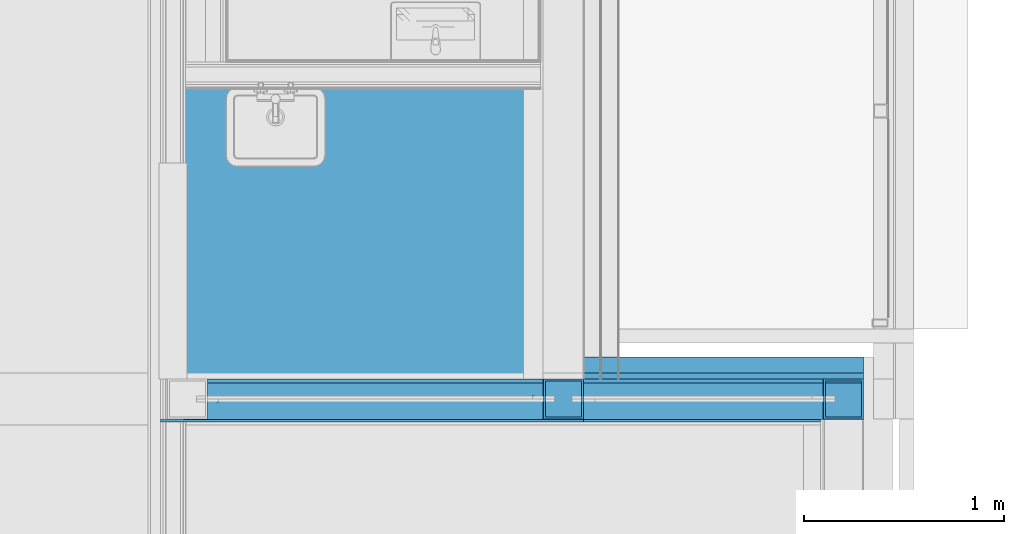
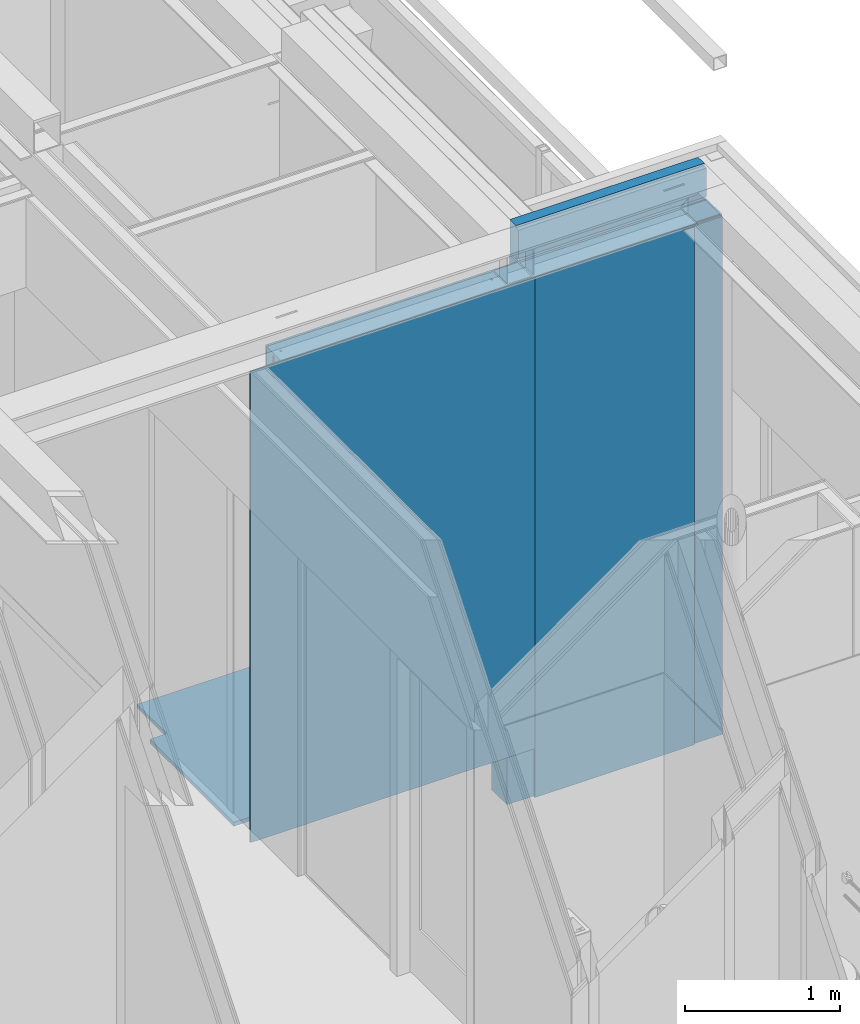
# One storey, part 90 of 165: 12 building element parts, 5 elements without a shape of their own.
"""IFC2X3 building model written with IfcOpenShell, lengths in millimetres."""

import ifcopenshell
import ifcopenshell.guid

model = None  # the IFC model being written
_history = None  # IfcOwnerHistory: only IFC2X3 demands one
_inside = {}  # id of a spatial element -> (the spatial element, [elements in it])
_under = {}  # id of a project, library or spatial element -> (it, [spatial elements below it])
_declared = {}  # id of a project -> (the project, [libraries it declares])
_typed = {}  # id of a type object -> (the type object, [elements of that type])
_made_of = {}  # id of a material, layer set ... -> (it, [elements and type objects made of it])


def new_model(schema):
    """Start an empty IFC model of exactly this schema.

    Asked for "IFC4X3", IfcOpenShell would pick the latest addendum, in which some entities
    have other attributes; the version numbers below select the first issue.
    IFC2X3 requires an IfcOwnerHistory on every rooted entity: one is made here for all.
    """
    global model, _history
    if schema == "IFC4X3":
        model = ifcopenshell.file(schema_version=(4, 3, 0, 0))
    else:
        model = ifcopenshell.file(schema=schema)
    _inside.clear()
    _under.clear()
    _declared.clear()
    _typed.clear()
    _made_of.clear()
    _history = None
    if model.schema == "IFC2X3":
        org = make("IfcOrganization", Name="unknown")
        user = make(
            "IfcPersonAndOrganization",
            ThePerson=make("IfcPerson", FamilyName="unknown"),
            TheOrganization=org,
        )
        app = make(
            "IfcApplication",
            ApplicationDeveloper=org,
            Version="unknown",
            ApplicationFullName="unknown",
            ApplicationIdentifier="unknown",
        )
        _history = make(
            "IfcOwnerHistory",
            OwningUser=user,
            OwningApplication=app,
            ChangeAction="ADDED",
            CreationDate=0,
        )
    return model


def make(cls, **values):
    """One entity of the class cls with the attributes given. An attribute that is None is left unset."""
    return model.create_entity(
        cls, **{name: value for name, value in values.items() if value is not None}
    )


def entity(cls, *values):
    """Any entity or typed value of the class cls, its attributes in the order of the schema. None: left unset."""
    e = model.create_entity(cls)
    for i, value in enumerate(values):
        if value is not None:
            e[i] = value
    return e


def rooted(cls, **values):
    """An entity with a GlobalId (a new one), such as an element, a storey or a relation."""
    return make(cls, GlobalId=ifcopenshell.guid.new(), OwnerHistory=_history, **values)


def si_unit(unit_type, name, prefix=None):
    """IfcSIUnit, for example si_unit("LENGTHUNIT", "METRE", prefix="MILLI")."""
    return make("IfcSIUnit", UnitType=unit_type, Prefix=prefix, Name=name)


def converted_unit(unit_type, name, factor, base, dimensions=None, offset=None):
    """IfcConversionBasedUnit, such as the inch: factor (a typed value) times the base unit."""
    return make(
        "IfcConversionBasedUnit"
        if offset is None
        else "IfcConversionBasedUnitWithOffset",
        ConversionOffset=offset,
        Dimensions=None
        if dimensions is None
        else entity("IfcDimensionalExponents", *dimensions),
        UnitType=unit_type,
        Name=name,
        ConversionFactor=make(
            "IfcMeasureWithUnit", ValueComponent=factor, UnitComponent=base
        ),
    )


def derived_unit(unit_type, elements):
    """IfcDerivedUnit: a product of units, each with its exponent."""
    return make(
        "IfcDerivedUnit",
        Elements=[
            make("IfcDerivedUnitElement", Unit=unit, Exponent=power)
            for unit, power in elements
        ],
        UnitType=unit_type,
    )


def money_unit(currency):
    """IfcMonetaryUnit."""
    return make("IfcMonetaryUnit", Currency=currency)


def assignment(units):
    """IfcUnitAssignment: the units of a project."""
    return None if units is None else make("IfcUnitAssignment", Units=units)


def point(xyz):
    """IfcCartesianPoint."""
    return None if xyz is None else make("IfcCartesianPoint", Coordinates=xyz)


def direction(xyz):
    """IfcDirection."""
    return None if xyz is None else make("IfcDirection", DirectionRatios=xyz)


def frame(location, z_axis=None, x_axis=None):
    """IfcAxis2Placement3D, a coordinate frame: its origin and axes. An axis left out is left unset."""
    return make(
        "IfcAxis2Placement3D",
        Location=point(location),
        Axis=direction(z_axis),
        RefDirection=direction(x_axis),
    )


def origin_with_axes():
    """The frame at (0, 0, 0) with the z axis (0, 0, 1) and the x axis (1, 0, 0) written out."""
    return frame((0.0, 0.0, 0.0), z_axis=(0.0, 0.0, 1.0), x_axis=(1.0, 0.0, 0.0))


def place(relative_to, where):
    """IfcLocalPlacement: puts the frame where relative to a parent placement (None: the world)."""
    return make(
        "IfcLocalPlacement", PlacementRelTo=relative_to, RelativePlacement=where
    )


def context(
    kind, dimensions, precision=None, world=None, true_north=None, identifier=None
):
    """IfcGeometricRepresentationContext, for example the 3D "Model" context."""
    return make(
        "IfcGeometricRepresentationContext",
        ContextIdentifier=identifier,
        ContextType=kind,
        CoordinateSpaceDimension=dimensions,
        Precision=precision,
        WorldCoordinateSystem=world,
        TrueNorth=true_north,
    )


def subcontext(parent, identifier, kind, view, scale=None):
    """IfcGeometricRepresentationSubContext, for example "Body" below "Model"."""
    return make(
        "IfcGeometricRepresentationSubContext",
        ContextIdentifier=identifier,
        ContextType=kind,
        ParentContext=parent,
        TargetScale=scale,
        TargetView=view,
    )


def project(units=None, contexts=None):
    """IfcProject with its units and contexts."""
    return rooted(
        "IfcProject",
        Name="project",
        RepresentationContexts=contexts,
        UnitsInContext=assignment(units),
    )


def spatial(cls, under=None, at=None, **own):
    """A site, building, storey or space (cls), placed at a placement, below another one or the project."""
    s = rooted(cls, ObjectPlacement=at, **own)
    if under is not None:
        _under.setdefault(under.id(), (under, []))[1].append(s)
    return s


def faces_of(points, faces, orient=None, outer=None):
    """IfcFace entities. A face is a list of loops; a loop is a list of indices into points, from 0.

    orient and outer hold one flag for each loop. By default every Orientation is true, the
    first loop of a face is its IfcFaceOuterBound and the others are IfcFaceBound.
    """
    made = []
    for i, loops in enumerate(faces):
        bounds = []
        for j, loop in enumerate(loops):
            is_outer = j == 0 if outer is None else outer[i][j]
            bounds.append(
                make(
                    "IfcFaceOuterBound" if is_outer else "IfcFaceBound",
                    Bound=make("IfcPolyLoop", Polygon=[points[k] for k in loop]),
                    Orientation=True if orient is None else orient[i][j],
                )
            )
        made.append(make("IfcFace", Bounds=bounds))
    return made


def faceted_brep(points, faces, orient=None, outer=None, voids=None):
    """IfcFacetedBrep: a solid bounded by flat faces; with voids (closed shells), ...WithVoids."""
    shared = [point(p) for p in points]
    hull = make("IfcClosedShell", CfsFaces=faces_of(shared, faces, orient, outer))
    if voids is None:
        return make("IfcFacetedBrep", Outer=hull)
    return make(
        "IfcFacetedBrepWithVoids",
        Outer=hull,
        Voids=[
            make(cls, CfsFaces=faces_of(shared, fs, o, b)) for cls, fs, o, b in voids
        ],
    )


def shape(context_of_items, identifier, shape_type, items):
    """IfcShapeRepresentation: the items that make up one representation, for example the "Body"."""
    return make(
        "IfcShapeRepresentation",
        ContextOfItems=context_of_items,
        RepresentationIdentifier=identifier,
        RepresentationType=shape_type,
        Items=items,
    )


def material(Name=None, Category=None):
    """IfcMaterial."""
    return make("IfcMaterial", Name=Name, Category=Category)


def made_of(thing, what):
    """Note that an element or type object is made of a material, layer set ...; save() writes the relation."""
    if what is not None:
        _made_of.setdefault(what.id(), (what, []))[1].append(thing)
    return thing


def type_object(cls, material=None, **own):
    """A type object (cls), such as IfcWallType, which elements share."""
    return made_of(rooted(cls, **own), material)


def element(
    cls,
    number,
    at=None,
    inside=None,
    cuts=None,
    type_object=None,
    material=None,
    context=None,
    identifier="Body",
    shape_type=None,
    held_by="IfcProductDefinitionShape",
    body=None,
    shapes=None,
    **own,
):
    """One element of the class cls, such as IfcWall. Its Tag is "e" and its number.

    at: its placement. inside: the storey or other place that contains it. cuts: it is an
    opening in that element (IfcRelVoidsElement). A single representation is given by context,
    identifier, shape_type and body (its items); several are given by shapes. held_by: the class
    of the entity that holds the representations. save() writes the other relations.
    """
    e = rooted(cls, Tag="e%d" % number, ObjectPlacement=at, **own)
    if body is not None:
        shapes = [shape(context, identifier, shape_type, body)]
    if shapes is not None:
        e.Representation = make(held_by, Representations=shapes)
    if inside is not None:
        _inside.setdefault(inside.id(), (inside, []))[1].append(e)
    if cuts is not None:
        rooted(
            "IfcRelVoidsElement", RelatingBuildingElement=cuts, RelatedOpeningElement=e
        )
    if type_object is not None:
        _typed.setdefault(type_object.id(), (type_object, []))[1].append(e)
    return made_of(e, material)


def aggregate(whole, parts):
    """IfcRelAggregates: a whole, such as a stair, and the parts it consists of."""
    return rooted("IfcRelAggregates", RelatingObject=whole, RelatedObjects=parts)


def save(model, path):
    """Write the relations noted so far, then the file.

    IfcRelAggregates (storeys below a building ...), IfcRelContainedInSpatialStructure (elements
    in a storey), IfcRelDefinesByType, IfcRelAssociatesMaterial and IfcRelDeclares: one each for
    every whole, place, type object, material and project.
    """
    for whole, parts in _under.values():
        aggregate(whole, parts)
    for where, things in _inside.values():
        rooted(
            "IfcRelContainedInSpatialStructure",
            RelatedElements=things,
            RelatingStructure=where,
        )
    for kind, things in _typed.values():
        rooted("IfcRelDefinesByType", RelatedObjects=things, RelatingType=kind)
    for what, things in _made_of.values():
        rooted("IfcRelAssociatesMaterial", RelatedObjects=things, RelatingMaterial=what)
    for by, libraries in _declared.values():
        rooted("IfcRelDeclares", RelatingContext=by, RelatedDefinitions=libraries)
    model.write(path)


model = new_model("IFC2X3")

# Units and contexts
model_context = context("Model", 3, precision=0.01, world=origin_with_axes(), true_north=direction((0.0, 1.0)))
body_context = subcontext(model_context, "Body", "Model", "MODEL_VIEW")
ifc_project = project(units=[si_unit("LENGTHUNIT", "METRE", prefix="MILLI"), si_unit("AREAUNIT", "SQUARE_METRE"), si_unit("VOLUMEUNIT", "CUBIC_METRE"), converted_unit("PLANEANGLEUNIT", "DEGREE", entity("IfcPlaneAngleMeasure", 0.0174532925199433), si_unit("PLANEANGLEUNIT", "RADIAN"), dimensions=[0, 0, 0, 0, 0, 0, 0]), money_unit("EUR"), converted_unit("TIMEUNIT", "Year", entity("IfcTimeMeasure", 31556926.0), si_unit("TIMEUNIT", "SECOND"), dimensions=[0, 0, 1, 0, 0, 0, 0]), si_unit("MASSUNIT", "GRAM", prefix="KILO"), si_unit("THERMODYNAMICTEMPERATUREUNIT", "DEGREE_CELSIUS"), si_unit("LUMINOUSINTENSITYUNIT", "LUMEN"), si_unit("ENERGYUNIT", "JOULE", prefix="MEGA"), derived_unit("THERMALCONDUCTANCEUNIT", [(si_unit("POWERUNIT", "WATT"), 1), (si_unit("LENGTHUNIT", "METRE"), -1), (si_unit("THERMODYNAMICTEMPERATUREUNIT", "KELVIN"), -1)]), derived_unit("SPECIFICHEATCAPACITYUNIT", [(si_unit("ENERGYUNIT", "JOULE"), 1), (si_unit("MASSUNIT", "GRAM", prefix="KILO"), -1), (si_unit("THERMODYNAMICTEMPERATUREUNIT", "KELVIN"), -1)]), derived_unit("MASSDENSITYUNIT", [(si_unit("MASSUNIT", "GRAM", prefix="KILO"), 1), (si_unit("VOLUMEUNIT", "CUBIC_METRE"), -1)])], contexts=[model_context])

# Site, building, storey
site_placement = place(None, origin_with_axes())
site = spatial("IfcSite", under=ifc_project, at=site_placement, Name="Site", CompositionType="ELEMENT")
building_placement = place(site_placement, origin_with_axes())
building = spatial("IfcBuilding", under=site, at=building_placement, Name="Naam gebouw", CompositionType="ELEMENT")
storey_placement = place(building_placement, origin_with_axes())
storey = spatial("IfcBuildingStorey", under=building, at=storey_placement, Name="Begane grond", CompositionType="ELEMENT", Elevation=0.0)

# Wall, building element parts
wall_type = type_object("IfcWallType", Name="21 Buitenwand spouwmuur HSB 464", PredefinedType="NOTDEFINED")
wall_placement = place(storey_placement, frame((28499.99998415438, 16749.99778166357, -485.0), z_axis=(0.0, 0.0, 1.0), x_axis=(1.0, 0.0, 0.0)))
wall = element("IfcWall", 1, at=wall_placement, inside=storey, type_object=wall_type, Name="21_Wand-x")
ifc_material_1 = material(Name="Isolatie - Steenwol zacht")
building_element_part_1_placement = place(wall_placement, origin_with_axes())
building_element_part_1 = element("IfcBuildingElementPart", 2, at=building_element_part_1_placement, material=ifc_material_1, Name="Isolatie - Steenwol zacht", context=body_context, shape_type="Brep", body=[
    faceted_brep([(0.0, 109.9999999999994, 0.0), (0.0, 109.9999999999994, 4067.999999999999), (16.0000203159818, 109.9999999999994, 4067.999999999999), (16.0000203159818, 109.9999999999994, 4079.999999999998), (1.000020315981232, 109.9999999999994, 4079.999999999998), (1.000020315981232, 109.9999999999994, 4345.0), (1400.000015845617, 109.9999999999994, 4345.0), (1400.000015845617, 109.9999999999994, 0.0), (0.0, 0.0, 0.0), (0.0, 0.0, 4067.999999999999), (16.0000203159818, 0.0, 4067.999999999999), (16.0000203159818, 0.0, 4079.999999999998), (1.000020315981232, 0.0, 4079.999999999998), (1.000020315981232, 29.99999999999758, 4327.5), (1.000020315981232, 29.99999999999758, 4345.0), (1.000020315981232, 0.0, 4085.0), (1.000020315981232, 29.99999999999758, 4085.0), (1.000020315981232, 29.99999999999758, 4102.5), (1.000020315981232, 0.0, 4102.5), (1.000020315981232, 0.0, 4327.5), (1400.000015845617, 29.99999999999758, 4345.0), (1400.000015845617, 29.99999999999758, 4327.5), (1400.000015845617, 0.0, 4327.5), (1400.000015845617, 0.0, 4102.5), (1400.000015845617, 29.99999999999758, 4102.5), (1400.000015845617, 29.99999999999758, 4085.0), (1400.000015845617, 0.0, 4085.0), (1400.000015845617, 0.0, 0.0)], [[[0, 1, 2, 3, 4, 5, 6, 7]], [[8, 9, 1, 0]], [[10, 2, 1, 9]], [[11, 3, 2, 10]], [[12, 4, 3, 11]], [[13, 14, 5, 4, 12, 15, 16, 17, 18, 19]], [[6, 5, 14, 20]], [[20, 21, 22, 23, 24, 25, 26, 27, 7, 6]], [[8, 0, 7, 27]], [[11, 10, 9, 8, 27, 26, 15, 12]], [[20, 14, 13, 21]], [[25, 16, 15, 26]], [[24, 17, 16, 25]], [[23, 18, 17, 24]], [[22, 19, 18, 23]], [[21, 13, 19, 22]]]),
])
ifc_material_2 = material(Name="ALG - ISOLATIE UITVULLING")
building_element_part_2_placement = place(wall_placement, origin_with_axes())
building_element_part_2 = element("IfcBuildingElementPart", 3, at=building_element_part_2_placement, material=ifc_material_2, Name="ALG - ISOLATIE UITVULLING", context=body_context, shape_type="Brep", body=[
    faceted_brep([(1200.000015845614, -18.00000000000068, 5.000000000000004), (1400.000015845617, -18.00000000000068, 5.000000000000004), (1400.000015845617, -18.00000000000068, 0.0), (0.0, -18.00000000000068, 0.0), (0.0, -18.00000000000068, 4067.999999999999), (16.0000203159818, -18.00000000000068, 4067.999999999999), (16.0000203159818, -18.00000000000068, 4079.999999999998), (1.000020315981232, -18.00000000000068, 4079.999999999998), (1.000020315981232, -18.00000000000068, 4085.0), (1199.00001584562, -18.00000000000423, 4085.0), (1199.00001584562, -18.00000000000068, 4080.0), (1101.000011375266, -18.00000000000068, 4080.0), (1101.000011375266, -18.00000000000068, 4068.0), (1200.000015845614, -18.00000000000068, 4068.0), (1200.000015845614, -200.0000000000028, 5.000000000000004), (1400.000015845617, -200.0000000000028, 5.000000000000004), (1400.000015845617, -200.0000000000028, 4068.0), (1400.00001584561, -201.9999999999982, 4068.0), (1400.000015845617, -201.9999999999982, 0.0), (0.0, -202.0000000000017, 0.0), (0.0, -200.0000000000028, 4085.0), (0.0, -200.0000000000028, 4067.999999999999), (0.0, -201.9999999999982, 4085.0), (0.0, -100.0000000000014, 454.7254375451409), (0.0, -100.0000000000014, 254.9999996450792), (0.0, -85.00000000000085, 254.9999996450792), (0.0, -85.00000000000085, 454.7254375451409), (0.0, -115.000000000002, 4065.000000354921), (0.0, -115.000000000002, 3865.274562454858), (0.0, -100.0000000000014, 3865.274562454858), (0.0, -100.0000000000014, 4065.000000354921), (16.0000203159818, -100.0000000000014, 4067.999999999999), (16.0000203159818, -200.0000000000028, 4067.999999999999), (16.0000203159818, -115.000000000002, 4067.999999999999), (9.524998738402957, -115.000000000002, 4067.999999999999), (9.524998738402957, -100.0000000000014, 4067.999999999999), (16.0000203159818, -200.0000000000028, 4079.999999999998), (16.0000203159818, -100.0000000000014, 4070.03937690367), (16.0000203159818, -115.000000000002, 4070.03937690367), (1.000020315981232, -200.0000000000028, 4079.999999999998), (1.000020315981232, -200.0000000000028, 4085.0), (1199.00001584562, -201.9999999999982, 4085.0), (1199.00001584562, -201.9999999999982, 4080.0), (1101.000011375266, -201.9999999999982, 4080.0), (1141.818775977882, -100.0000000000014, 4080.0), (1152.375016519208, -100.0000000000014, 4080.0), (1152.375016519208, -85.00000000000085, 4080.0), (1141.818775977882, -85.00000000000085, 4080.0), (1101.000011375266, -201.9999999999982, 4068.0), (1200.000015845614, -200.0000000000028, 4068.0), (1138.03924836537, -100.0000000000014, 4068.0), (1138.03924836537, -85.00000000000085, 4068.0), (1190.475015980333, -85.00000000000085, 4068.0), (1190.475015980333, -100.0000000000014, 4068.0), (1200.000015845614, -115.000000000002, 454.7254339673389), (1200.000015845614, -100.0000000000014, 454.7254339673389), (1200.000015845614, -100.0000000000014, 255.0), (1200.000015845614, -115.000000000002, 255.0), (1200.000015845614, -100.0000000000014, 4065.0), (1200.000015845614, -85.00000000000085, 4065.0), (1200.000015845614, -85.00000000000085, 3865.274566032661), (1200.000015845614, -100.0000000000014, 3865.274566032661), (537.0943579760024, -100.0000000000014, 2160.0), (600.0000073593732, -100.0000000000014, 1960.274566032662), (57.22856316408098, -100.0000000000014, 236.9752550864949), (57.22856316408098, -85.00000000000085, 236.9752550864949), (600.0000073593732, -100.0000000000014, 2359.725433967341), (1142.771451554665, -115.000000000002, 236.9752550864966), (57.22856316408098, -115.000000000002, 4083.024744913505), (1142.771451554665, -100.0000000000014, 236.9752550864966), (57.22856316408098, -100.0000000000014, 4083.024744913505), (1142.771451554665, -100.0000000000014, 4083.024744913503), (1142.771451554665, -85.00000000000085, 4083.024744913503), (662.905656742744, -100.0000000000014, 2160.000000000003)], [[[0, 1, 2, 3, 4, 5, 6, 7, 8, 9, 10, 11, 12, 13]], [[0, 14, 15, 1]], [[15, 16, 17, 18, 2, 1]], [[19, 3, 2, 18]], [[20, 21, 4, 3, 19, 22], [23, 24, 25, 26], [27, 28, 29, 30]], [[31, 5, 4, 21, 32, 33, 34, 35]], [[36, 6, 5, 31, 37, 38, 33, 32]], [[39, 7, 6, 36]], [[39, 40, 8, 7]], [[22, 41, 9, 8, 40, 20]], [[42, 10, 9, 41]], [[43, 11, 10, 42], [44, 45, 46, 47]], [[48, 12, 11, 43]], [[49, 13, 12, 48, 17, 16], [50, 51, 52, 53]], [[0, 13, 49, 14], [54, 55, 56, 57], [58, 59, 60, 61]], [[49, 16, 15, 14]], [[43, 42, 41, 22, 19, 18, 17, 48]], [[21, 20, 40, 39, 36, 32]], [[23, 62, 63, 64, 24]], [[65, 25, 24, 64]], [[60, 59, 52, 51, 26, 25, 65]], [[26, 51, 50, 66, 62, 23]], [[54, 57, 67, 28, 27, 34, 33, 38, 68]], [[69, 63, 62, 29, 28, 67]], [[37, 31, 35, 30, 29, 62, 66, 70]], [[30, 35, 34, 27]], [[68, 38, 37, 70]], [[71, 45, 44]], [[72, 46, 45, 71]], [[72, 47, 46]], [[71, 44, 47, 72]], [[59, 58, 53, 52]], [[58, 61, 73, 66, 50, 53]], [[55, 54, 68, 70, 66, 73]], [[56, 55, 73, 63, 69]], [[57, 56, 69, 67]], [[61, 60, 65, 64, 63, 73]]]),
    faceted_brep([(1395.000015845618, -200.0000000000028, 4080.0), (1395.000015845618, -200.0000000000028, 4084.999999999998), (1395.000015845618, -201.9999999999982, 4085.0), (1395.000015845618, -201.9999999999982, 4080.0), (1205.00001584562, -200.0000000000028, 4084.999999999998), (1205.00001584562, -200.0000000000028, 4080.0), (1205.00001584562, -201.9999999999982, 4085.0), (1205.00001584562, -201.9999999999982, 4080.0)], [[[0, 1, 2, 3]], [[4, 1, 0, 5]], [[1, 4, 6, 2]], [[7, 3, 2, 6]], [[5, 0, 3, 7]], [[4, 5, 7, 6]]]),
])
ifc_material_3 = material(Name="Steen - Kalkzandsteen C")
building_element_part_3_placement = place(wall_placement, origin_with_axes())
building_element_part_3 = element("IfcBuildingElementPart", 4, at=building_element_part_3_placement, material=ifc_material_3, Name="Steen - Kalkzandsteen C", context=body_context, shape_type="Brep", body=[
    faceted_brep([(1186.000015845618, -213.9999999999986, 4079.999999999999), (1186.000015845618, -201.9999999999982, 4080.0), (1186.000015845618, -201.9999999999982, 4085.0), (1186.000015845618, -213.9999999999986, 4085.0), (1101.000011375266, -201.9999999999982, 4080.0), (1101.000011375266, -213.9999999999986, 4080.0), (1101.000011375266, -201.9999999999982, 4068.0), (1186.000015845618, -201.9999999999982, 4068.0), (1186.000015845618, -201.9999999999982, 0.0), (0.0, -202.0000000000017, 0.0), (0.0, -201.9999999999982, 4085.0), (0.0, -213.9999999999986, 4085.0), (0.0, -213.9999999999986, 0.0), (1186.000015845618, -213.9999999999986, 0.0), (1186.000015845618, -213.9999999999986, 4068.0), (1101.000011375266, -213.9999999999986, 4068.0)], [[[0, 1, 2, 3]], [[4, 1, 0, 5]], [[6, 7, 8, 9, 10, 2, 1, 4]], [[11, 3, 2, 10]], [[5, 0, 3, 11, 12, 13, 14, 15]], [[6, 4, 5, 15]], [[14, 7, 6, 15]], [[7, 14, 13, 8]], [[9, 8, 13, 12]], [[12, 11, 10, 9]]]),
])
ifc_material_4 = material(Name="Cementgebonden plaatmateriaal")
building_element_part_4_placement = place(wall_placement, origin_with_axes())
building_element_part_4 = element("IfcBuildingElementPart", 5, at=building_element_part_4_placement, material=ifc_material_4, Name="Cementgebonden plaatmateriaal", context=body_context, shape_type="Brep", body=[
    faceted_brep([(1400.000015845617, -18.00000000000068, 5.000000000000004), (1400.000015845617, 0.0, 5.000000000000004), (1200.000015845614, 0.0, 5.000000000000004), (1200.000015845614, -18.00000000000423, 5.000000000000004), (1400.000015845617, -18.00000000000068, 0.0), (1400.000015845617, 0.0, 0.0), (1200.000015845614, 0.0, 4068.0), (0.0, 0.0, 0.0), (3.965108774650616e-05, 0.0, 4067.999999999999), (16.0000203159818, 0.0, 4067.999999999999), (16.0000203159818, 0.0, 4079.999999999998), (1.000020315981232, 0.0, 4079.999999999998), (1.000020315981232, 0.0, 4085.0), (1199.00001584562, 0.0, 4085.0), (1199.00001584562, 0.0, 4080.0), (1101.000011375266, 0.0, 4080.0), (1101.000011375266, 0.0, 4068.0), (1200.000015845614, -18.00000000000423, 4068.0), (1101.000011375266, -18.00000000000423, 4068.0), (1101.000011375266, -18.00000000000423, 4080.0), (1199.00001584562, -18.00000000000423, 4080.0), (1199.00001584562, -18.00000000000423, 4085.0), (1.000020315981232, -18.00000000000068, 4085.0), (1.000020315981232, -18.00000000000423, 4079.999999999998), (16.0000203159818, -18.00000000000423, 4079.999999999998), (16.0000203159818, -18.00000000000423, 4067.999999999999), (0.0, -18.00000000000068, 4067.999999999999), (0.0, -18.00000000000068, 0.0)], [[[0, 1, 2, 3]], [[1, 0, 4, 5]], [[6, 2, 1, 5, 7, 8, 9, 10, 11, 12, 13, 14, 15, 16]], [[2, 6, 17, 3]], [[0, 3, 17, 18, 19, 20, 21, 22, 23, 24, 25, 26, 27, 4]], [[27, 7, 5, 4]], [[27, 26, 8, 7]], [[25, 9, 8, 26]], [[24, 10, 9, 25]], [[23, 11, 10, 24]], [[23, 22, 12, 11]], [[22, 21, 13, 12]], [[20, 14, 13, 21]], [[19, 15, 14, 20]], [[18, 16, 15, 19]], [[17, 6, 16, 18]]]),
])
aggregate(wall, [building_element_part_1, building_element_part_2, building_element_part_3, building_element_part_4])

# Proxy, building element parts
building_element_proxy_type = type_object("IfcBuildingElementProxyType", Name="22 HSB wand 214 214", PredefinedType="NOTDEFINED")
proxy_placement = place(storey_placement, frame((26386.00000000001, 16535.99778166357, -100.0), z_axis=(0.0, 0.0, 1.0), x_axis=(1.0, 0.0, 0.0)))
proxy = element("IfcBuildingElementProxy", 6, at=proxy_placement, inside=storey, type_object=building_element_proxy_type, Name="_Wand-x")
building_element_part_5_placement = place(proxy_placement, origin_with_axes())
building_element_part_5 = element("IfcBuildingElementPart", 7, at=building_element_part_5_placement, material=ifc_material_2, Name="ALG - ISOLATIE UITVULLING", context=body_context, shape_type="Brep", body=[
    faceted_brep([(1913.999983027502, 128.9999999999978, 3531.287411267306), (1913.999983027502, 128.9999999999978, 3679.999999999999), (1907.196411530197, 128.9999999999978, 3682.999999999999), (1849.748763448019, 128.9999999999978, 3682.999999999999), (233.9999999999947, 128.9999999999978, 18.71258873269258), (233.9999999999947, 128.9999999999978, 0.0), (356.8968882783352, 128.9999999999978, 0.0), (1913.999983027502, 196.0000000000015, 0.0), (1913.999983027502, 196.0000000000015, 3682.999999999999), (1913.999983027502, 13.99999999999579, 3682.999999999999), (1913.999983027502, 13.99999999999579, 0.0), (1913.999983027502, 98.99999999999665, 0.0), (1913.999983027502, 98.99999999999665, 18.71258873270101), (1913.999983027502, 113.9999999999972, 18.71258873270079), (1913.999983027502, 113.9999999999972, 0.0), (1913.999983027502, 113.9999999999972, 3679.999999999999), (1913.999983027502, 113.9999999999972, 3531.287411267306), (1907.196411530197, 113.9999999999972, 3682.999999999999), (1815.000000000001, 196.0000000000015, 3682.999999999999), (1815.000000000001, 13.99999999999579, 3682.999999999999), (1849.748763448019, 113.9999999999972, 3682.999999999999), (233.9999999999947, 113.9999999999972, 18.7125887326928), (1073.999991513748, 113.9999999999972, 1923.712588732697), (1008.425937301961, 113.9999999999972, 1775.0), (233.9999999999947, 13.99999999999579, 3699.999999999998), (233.9999999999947, 196.0000000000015, 3699.999999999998), (233.9999999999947, 196.0000000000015, 0.0), (233.9999999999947, 113.9999999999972, 0.0), (233.9999999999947, 13.99999999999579, 0.0), (233.9999999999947, 113.9999999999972, 3531.287411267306), (233.9999999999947, 113.9999999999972, 3679.999999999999), (233.9999999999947, 98.99999999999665, 3679.999999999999), (233.9999999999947, 98.99999999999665, 3531.287411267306), (2113.999983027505, 13.99999999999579, 0.0), (2113.999984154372, 12.00000000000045, 0.0), (112.5000000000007, 12.00000000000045, 0.0), (112.5000000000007, 13.99999999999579, 0.0), (356.8968882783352, 113.9999999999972, 0.0), (1791.103094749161, 113.9999999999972, 0.0), (1791.103094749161, 98.99999999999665, 0.0), (1073.999991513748, 113.9999999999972, 1626.287411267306), (1139.574045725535, 113.9999999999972, 1775.000000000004), (1913.000004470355, 196.0000000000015, 3700.0), (1913.000004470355, 196.0000000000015, 3694.999999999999), (1815.000000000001, 196.0000000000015, 3694.999999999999), (2109.000004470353, 13.99999999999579, 3699.999999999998), (2113.999984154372, 13.99999999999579, 3700.0), (2113.999983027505, 13.99999999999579, 3682.999999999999), (1815.000000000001, 13.99999999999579, 3694.999999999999), (1913.000004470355, 13.99999999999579, 3694.999999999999), (1913.000004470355, 13.99999999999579, 3700.0), (1919.000004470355, 13.99999999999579, 3699.999999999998), (279.3571433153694, 98.99999999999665, 3700.0), (290.7551566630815, 98.99999999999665, 3700.0), (290.7551566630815, 113.9999999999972, 3700.0), (279.3571433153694, 113.9999999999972, 3700.0), (112.5000000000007, 13.99999999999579, 3699.999999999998), (112.5000000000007, 12.00000000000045, 3700.0), (2113.999984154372, 12.00000000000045, 3700.0), (1868.64283971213, 113.9999999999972, 3700.0), (1857.244826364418, 113.9999999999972, 3700.0), (1857.244826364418, 128.9999999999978, 3700.0), (1868.64283971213, 128.9999999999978, 3700.0), (1855.040101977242, 113.9999999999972, 3694.999999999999), (1879.982125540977, 113.9999999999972, 3694.999999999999), (1879.982125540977, 128.9999999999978, 3694.999999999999), (1855.040101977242, 128.9999999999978, 3694.999999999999)], [[[0, 1, 2, 3, 4, 5, 6]], [[7, 8, 9, 10, 11, 12, 13, 14], [15, 1, 0, 16]], [[1, 15, 17, 2]], [[9, 8, 18, 19], [20, 3, 2, 17]], [[21, 4, 3, 20, 22, 23]], [[24, 25, 26, 5, 4, 21, 27, 28], [29, 30, 31, 32]], [[10, 33, 34, 35, 36, 28, 27, 37, 6, 5, 26, 7, 14, 38, 39, 11]], [[16, 0, 6, 37, 40, 41]], [[8, 7, 26, 25, 42, 43, 44, 18]], [[45, 46, 47, 33, 10, 9, 19, 48, 49, 50, 51]], [[12, 11, 39, 32, 31, 52, 53]], [[13, 12, 53, 54, 22, 41]], [[14, 13, 41, 40, 38]], [[15, 16, 41, 22, 20, 17]], [[19, 18, 44, 48]], [[30, 29, 23, 22, 54, 55]], [[27, 21, 23, 40, 37]], [[45, 51, 50, 42, 25, 24, 56, 57, 58, 46], [59, 60, 61, 62], [53, 52, 55, 54]], [[56, 24, 28, 36]], [[31, 30, 55, 52]], [[29, 32, 39, 38, 40, 23]], [[33, 47, 46, 58, 34]], [[57, 35, 34, 58]], [[56, 36, 35, 57]], [[49, 43, 42, 50]], [[48, 44, 43, 49], [63, 64, 65, 66]], [[59, 64, 63, 60]], [[60, 63, 66, 61]], [[61, 66, 65, 62]], [[62, 65, 64, 59]]]),
])
building_element_part_6_placement = place(proxy_placement, origin_with_axes())
building_element_part_6 = element("IfcBuildingElementPart", 8, at=building_element_part_6_placement, material=ifc_material_3, Name="Steen - Kalkzandsteen C", context=body_context, shape_type="Brep", body=[
    faceted_brep([(2113.999984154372, 0.0, 3700.0), (2113.999984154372, 12.00000000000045, 3700.0), (0.0, 12.00000000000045, 3700.0), (0.0, 0.0, 3700.0), (2113.999984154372, 0.0, 0.0), (2113.999984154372, 12.00000000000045, 0.0), (0.0, 12.00000000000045, 0.0), (0.0, 0.0, 0.0)], [[[0, 1, 2, 3]], [[0, 4, 5, 1]], [[1, 5, 6, 2]], [[3, 2, 6, 7]], [[4, 0, 3, 7]], [[5, 4, 7, 6]]]),
])
ifc_material_5 = material(Name="Gipsplaat")
building_element_part_7_placement = place(proxy_placement, origin_with_axes())
building_element_part_7 = element("IfcBuildingElementPart", 9, at=building_element_part_7_placement, material=ifc_material_5, Name="Gipsplaat", context=body_context, shape_type="Brep", body=[
    faceted_brep([(1913.999983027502, 196.0000000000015, 3682.999999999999), (1913.999983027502, 213.9999999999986, 3682.999999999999), (1815.000000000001, 213.9999999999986, 3682.999999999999), (1815.000000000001, 196.0000000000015, 3682.999999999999), (1913.999983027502, 213.9999999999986, 0.0), (1913.999983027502, 196.0000000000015, 0.0), (233.9999999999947, 213.9999999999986, 0.0), (233.9999999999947, 213.9999999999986, 3699.999999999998), (1913.000004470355, 213.9999999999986, 3700.0), (1913.000004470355, 213.9999999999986, 3694.999999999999), (1815.000000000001, 213.9999999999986, 3694.999999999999), (1815.000000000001, 196.0000000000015, 3694.999999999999), (1913.000004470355, 196.0000000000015, 3694.999999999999), (1913.000004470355, 196.0000000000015, 3700.0), (233.9999999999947, 196.0000000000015, 3699.999999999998), (233.9999999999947, 196.0000000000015, 0.0)], [[[0, 1, 2, 3]], [[4, 1, 0, 5]], [[1, 4, 6, 7, 8, 9, 10, 2]], [[3, 2, 10, 11]], [[5, 0, 3, 11, 12, 13, 14, 15]], [[4, 5, 15, 6]], [[14, 7, 6, 15]], [[7, 14, 13, 8]], [[12, 9, 8, 13]], [[11, 10, 9, 12]]]),
])
aggregate(proxy, [building_element_part_5, building_element_part_6, building_element_part_7])

# Column, building element parts
column_type = type_object("IfcColumnType", Name="200X200X10 200 x 200", PredefinedType="COLUMN")
column_1_placement = place(storey_placement, frame((29799.99999999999, 16649.99778166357, -480.0), z_axis=(0.0, 0.0, 1.0), x_axis=(1.0, 0.0, 0.0)))
column_1 = element("IfcColumn", 10, at=column_1_placement, inside=storey, type_object=column_type, Name="28_Kolom-x", ObjectType="COLUMN")
ifc_material_6 = material(Name="Beton gewapend C")
building_element_part_8_placement = place(column_1_placement, origin_with_axes())
building_element_part_8 = element("IfcBuildingElementPart", 11, at=building_element_part_8_placement, material=ifc_material_6, Name="Beton gewapend C", context=body_context, shape_type="Brep", body=[
    faceted_brep([(-89.99999999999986, 89.99999999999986, 4063.0), (89.99999999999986, 89.99999999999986, 4063.0), (89.99999999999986, 89.99999999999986, 0.0), (-89.99999999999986, 89.99999999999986, 0.0), (89.99999999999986, -89.99999999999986, 4063.0), (-89.99999999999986, -89.99999999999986, 4063.0), (89.99999999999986, -89.99999999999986, 0.0), (-89.99999999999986, -89.99999999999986, 0.0)], [[[0, 1, 2, 3]], [[4, 1, 0, 5]], [[1, 4, 6, 2]], [[2, 6, 7, 3]], [[5, 0, 3, 7]], [[4, 5, 7, 6]]]),
    faceted_brep([(89.99999999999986, -89.99999999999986, 4074.999999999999), (89.99999999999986, 89.99999999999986, 4074.999999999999), (89.99999999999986, 89.99999999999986, 4079.999999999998), (89.99999999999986, -89.99999999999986, 4079.999999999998), (-89.99999999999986, 89.99999999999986, 4074.999999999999), (-89.99999999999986, -89.99999999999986, 4074.999999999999), (-89.99999999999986, 89.99999999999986, 4079.999999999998), (-89.99999999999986, -89.99999999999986, 4079.999999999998)], [[[0, 1, 2, 3]], [[4, 1, 0, 5]], [[1, 4, 6, 2]], [[2, 6, 7, 3]], [[5, 0, 3, 7]], [[4, 5, 7, 6]]]),
])
ifc_material_7 = material(Name="Metaal - Staal C")
building_element_part_9_placement = place(column_1_placement, origin_with_axes())
building_element_part_9 = element("IfcBuildingElementPart", 12, at=building_element_part_9_placement, material=ifc_material_7, Name="Metaal - Staal C", context=body_context, shape_type="Brep", body=[
    faceted_brep([(-100.0000000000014, -100.0000000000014, 0.0), (100.0000000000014, -100.0000000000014, 0.0), (100.0000000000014, -100.0000000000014, 4079.999999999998), (-100.0000000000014, -100.0000000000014, 4079.999999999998), (-100.0000000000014, 100.0000000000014, 0.0), (100.0000000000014, 100.0000000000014, 0.0), (-89.99999999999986, -89.99999999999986, 0.0), (89.99999999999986, -89.99999999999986, 0.0), (89.99999999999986, 89.99999999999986, 0.0), (-89.99999999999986, 89.99999999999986, 0.0), (100.0000000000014, 100.0000000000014, 4079.999999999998), (-100.0000000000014, 100.0000000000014, 4079.999999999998), (-89.99999999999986, -89.99999999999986, 4079.999999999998), (-89.99999999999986, 89.99999999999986, 4079.999999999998), (89.99999999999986, 89.99999999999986, 4079.999999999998), (89.99999999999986, -89.99999999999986, 4079.999999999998)], [[[0, 1, 2, 3]], [[0, 4, 5, 1], [6, 7, 8, 9]], [[1, 5, 10, 2]], [[3, 2, 10, 11], [12, 13, 14, 15]], [[4, 0, 3, 11]], [[5, 4, 11, 10]], [[7, 6, 12, 15]], [[8, 7, 15, 14]], [[9, 8, 14, 13]], [[6, 9, 13, 12]]]),
])
aggregate(column_1, [building_element_part_8, building_element_part_9])

column_2_placement = place(storey_placement, frame((28399.99998302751, 16649.99778166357, -480.0), z_axis=(0.0, 0.0, 1.0), x_axis=(1.0, 0.0, 0.0)))
column_2 = element("IfcColumn", 13, at=column_2_placement, inside=storey, type_object=column_type, Name="28_Kolom-x", ObjectType="COLUMN")
building_element_part_10_placement = place(column_2_placement, origin_with_axes())
building_element_part_10 = element("IfcBuildingElementPart", 14, at=building_element_part_10_placement, material=ifc_material_7, Name="Metaal - Staal C", context=body_context, shape_type="Brep", body=[
    faceted_brep([(-100.0000000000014, -100.0000000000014, 0.0), (100.0000000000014, -100.0000000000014, 0.0), (100.0000000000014, -100.0000000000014, 4079.999999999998), (-100.0000000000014, -100.0000000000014, 4079.999999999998), (-100.0000000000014, 100.0000000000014, 0.0), (100.0000000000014, 100.0000000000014, 0.0), (-89.99999999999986, -89.99999999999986, 0.0), (89.99999999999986, -89.99999999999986, 0.0), (89.99999999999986, 89.99999999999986, 0.0), (-89.99999999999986, 89.99999999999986, 0.0), (100.0000000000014, 100.0000000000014, 4079.999999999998), (-100.0000000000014, 100.0000000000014, 4079.999999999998), (-89.99999999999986, -89.99999999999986, 4079.999999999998), (-89.99999999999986, 89.99999999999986, 4079.999999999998), (89.99999999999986, 89.99999999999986, 4079.999999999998), (89.99999999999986, -89.99999999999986, 4079.999999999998)], [[[0, 1, 2, 3]], [[0, 4, 5, 1], [6, 7, 8, 9]], [[1, 5, 10, 2]], [[3, 2, 10, 11], [12, 13, 14, 15]], [[4, 0, 3, 11]], [[5, 4, 11, 10]], [[7, 6, 12, 15]], [[8, 7, 15, 14]], [[9, 8, 14, 13]], [[6, 9, 13, 12]]]),
])
building_element_part_11_placement = place(column_2_placement, origin_with_axes())
building_element_part_11 = element("IfcBuildingElementPart", 15, at=building_element_part_11_placement, material=ifc_material_6, Name="Beton gewapend C", context=body_context, shape_type="Brep", body=[
    faceted_brep([(-89.99999999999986, 89.99999999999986, 4062.999999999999), (89.99999999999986, 89.99999999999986, 4062.999999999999), (89.99999999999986, 89.99999999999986, 0.0), (-89.99999999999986, 89.99999999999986, 0.0), (89.99999999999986, -89.99999999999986, 4062.999999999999), (-89.99999999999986, -89.99999999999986, 4062.999999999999), (89.99999999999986, -89.99999999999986, 0.0), (-89.99999999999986, -89.99999999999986, 0.0)], [[[0, 1, 2, 3]], [[4, 1, 0, 5]], [[1, 4, 6, 2]], [[2, 6, 7, 3]], [[5, 0, 3, 7]], [[4, 5, 7, 6]]]),
    faceted_brep([(89.99999999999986, -89.99999999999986, 4074.999999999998), (89.99999999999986, 89.99999999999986, 4074.999999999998), (89.99999999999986, 89.99999999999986, 4079.999999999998), (89.99999999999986, -89.99999999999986, 4079.999999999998), (-89.99999999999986, 89.99999999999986, 4074.999999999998), (-89.99999999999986, -89.99999999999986, 4074.999999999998), (-89.99999999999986, 89.99999999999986, 4079.999999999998), (-89.99999999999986, -89.99999999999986, 4079.999999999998)], [[[0, 1, 2, 3]], [[4, 1, 0, 5]], [[1, 4, 6, 2]], [[2, 6, 7, 3]], [[5, 0, 3, 7]], [[4, 5, 7, 6]]]),
])
aggregate(column_2, [building_element_part_10, building_element_part_11])

# Slab, building element part
slab_type = type_object("IfcSlabType", Name="43 Zwevende dekvloer 100", PredefinedType="NOTDEFINED")
slab_placement = place(storey_placement, frame((26386.00000000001, 17829.99778166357, 0.0), z_axis=(0.0, 0.0, 1.0), x_axis=(1.0, 0.0, 0.0)))
slab = element("IfcSlab", 16, at=slab_placement, inside=storey, type_object=slab_type, Name="_Vloer-x", PredefinedType="NOTDEFINED")
ifc_material_8 = material(Name="Isolatie - XPS zwevende dekvloer")
building_element_part_12_placement = place(slab_placement, origin_with_axes())
building_element_part_12 = element("IfcBuildingElementPart", 17, at=building_element_part_12_placement, material=ifc_material_8, Name="Isolatie - XPS zwevende dekvloer", context=body_context, shape_type="Brep", body=[
    faceted_brep([(0.0, 0.0, -100.0), (0.0, -1079.999999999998, -100.0), (0.0, -1079.999999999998, -70.0), (0.0, 0.0, -70.0), (125.0, 0.0, -100.0), (125.0, 381.0026030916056, -100.0), (1899.999984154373, 381.0026030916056, -100.0), (1900.000062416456, -1168.999999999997, -100.0), (233.9999999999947, -1168.999999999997, -100.0), (233.9999999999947, -1079.999999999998, -100.0), (233.9999999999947, -1079.999999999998, -70.0), (233.9999999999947, -1168.999999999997, -70.0), (1900.000062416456, -1168.999999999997, -70.0), (1899.999984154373, 381.0026030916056, -70.0), (125.0, 381.0026030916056, -70.0), (125.0, 0.0, -70.0)], [[[0, 1, 2, 3]], [[0, 4, 5, 6, 7, 8, 9, 1]], [[1, 9, 10, 2]], [[3, 2, 10, 11, 12, 13, 14, 15]], [[4, 0, 3, 15]], [[5, 4, 15, 14]], [[6, 5, 14, 13]], [[7, 6, 13, 12]], [[8, 7, 12, 11]], [[9, 8, 11, 10]]]),
])
aggregate(slab, [building_element_part_12])

save(model, "model.ifc")
